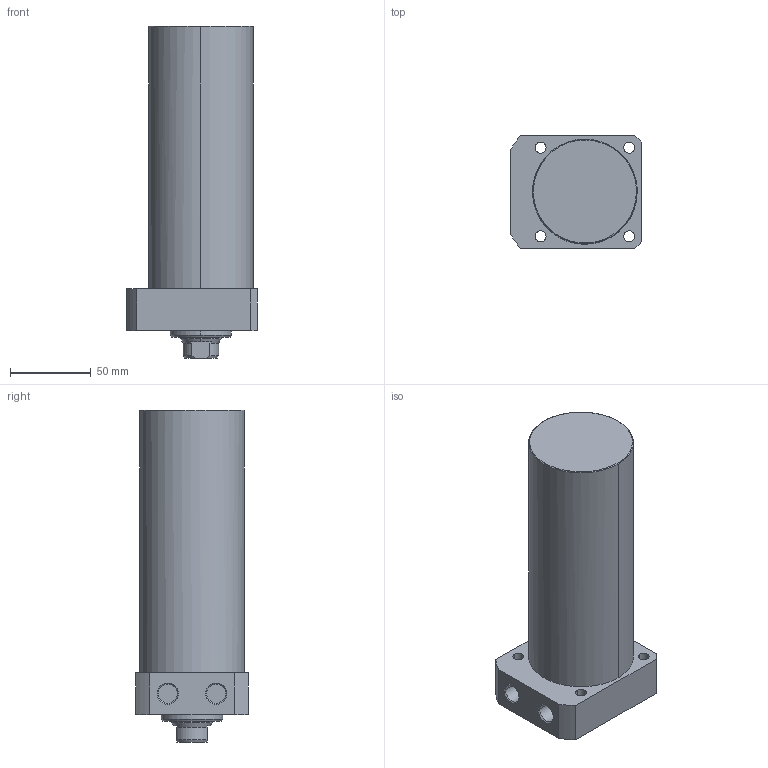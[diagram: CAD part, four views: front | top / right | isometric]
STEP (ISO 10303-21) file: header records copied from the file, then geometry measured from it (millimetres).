
FILE_DESCRIPTION((' '),'2;1');
FILE_NAME( 'TLLR-065CA-130.STEP.stp', '2025-10-24T16:34:55', (' '), ('--- Datakit www.datakit.com---'), ' Datakit CrossCadWare V2024.1 Dec 21 2023', 'Mastercam 2025', ' ');
FILE_SCHEMA(('AUTOMOTIVE_DESIGN { 1 0 10303 214 1 1 1 1 }'));
Length unit declared in the file: millimetre
Products named in the file (1): TLLR-065CA-130
Bounding box: 81 x 70 x 206 mm (x, y, z)
Volume: 684857 mm3; surface area: 57715 mm2
Topology: 1 solids, 1 shells, 63 faces, 179 edges, 124 vertices
Faces by surface type: cylinder 28, plane 19, cone 14, torus 2
Entity records: 2174 total; most frequent: DIRECTION 402, CARTESIAN_POINT 397, ORIENTED_EDGE 354, EDGE_CURVE 177, AXIS2_PLACEMENT_3D 169, VERTEX_POINT 124, CIRCLE 105, EDGE_LOOP 79
